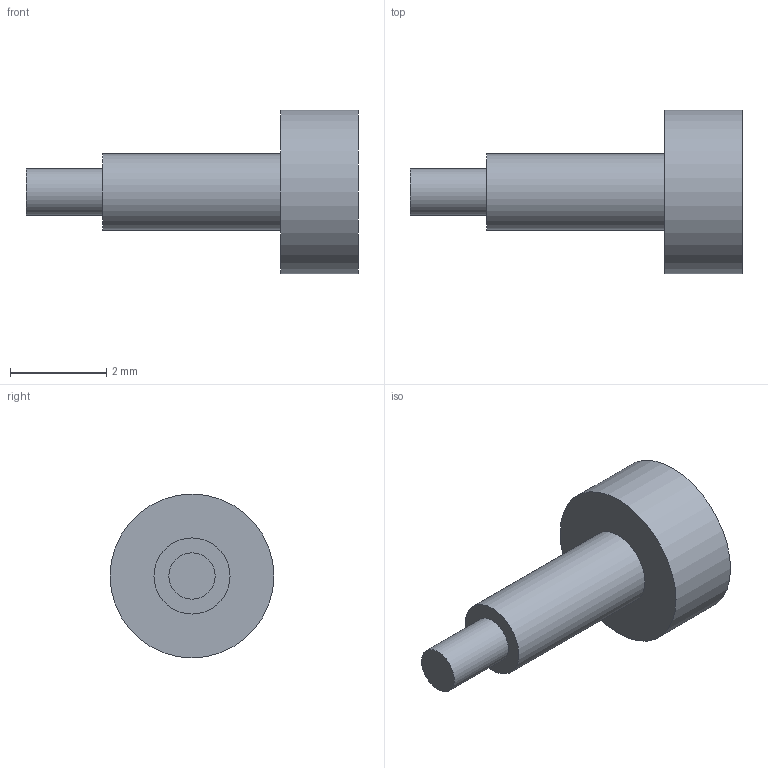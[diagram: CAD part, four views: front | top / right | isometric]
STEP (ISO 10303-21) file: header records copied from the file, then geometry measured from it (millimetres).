
FILE_DESCRIPTION(('Open CASCADE Model'),'2;1');
FILE_NAME('Open CASCADE Shape Model','2026-09-24T02:53:21',('Author'),( 'Open CASCADE'),'Open CASCADE STEP processor 7.8','Open CASCADE 7.8' ,'Unknown');
FILE_SCHEMA(('AUTOMOTIVE_DESIGN { 1 0 10303 214 1 1 1 1 }'));
Length unit declared in the file: millimetre
Products named in the file (1): Open CASCADE STEP translator 7.8 30
Bounding box: 6.89 x 3.4 x 3.4 mm (x, y, z)
Volume: 22.9 mm3; surface area: 58.4 mm2
Topology: 1 solids, 1 shells, 7 faces, 9 edges, 6 vertices
Faces by surface type: plane 4, cylinder 3
Full cylindrical faces by diameter (mm): 0.96 x1, 1.58 x1, 3.4 x1
Entity records: 276 total; most frequent: DIRECTION 49, CARTESIAN_POINT 41, ORIENTED_EDGE 18, PCURVE 18, DEFINITIONAL_REPRESENTATION 18, LINE 15, VECTOR 15, AXIS2_PLACEMENT_3D 14
